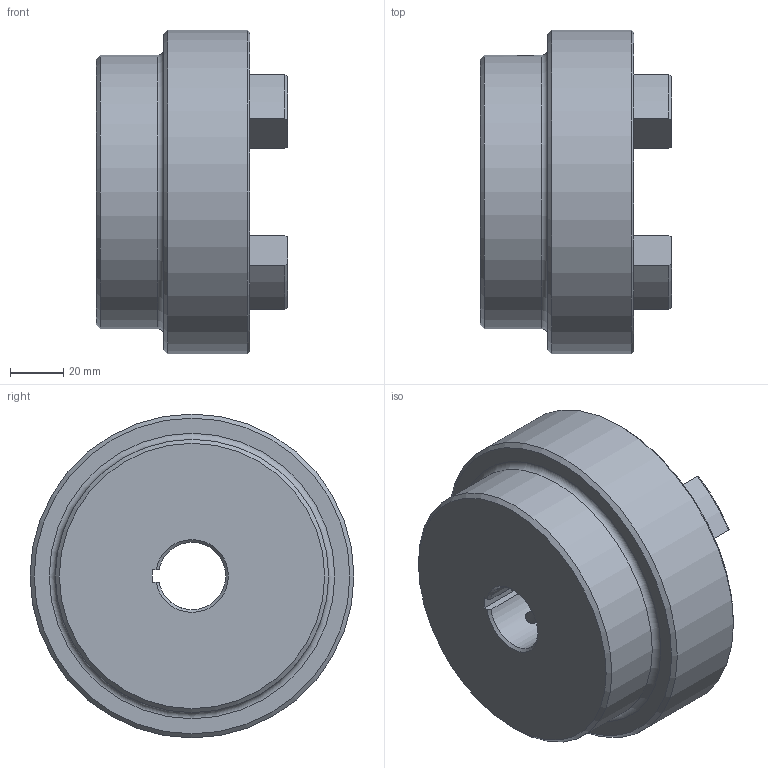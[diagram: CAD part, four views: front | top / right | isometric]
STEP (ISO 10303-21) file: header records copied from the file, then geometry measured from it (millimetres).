
FILE_DESCRIPTION (( 'STEP AP203' ), '1' );
FILE_NAME ('RC5.step', '2024-07-25T13:21:55', ( 'Adlan' ), ( '' ), 'SwSTEP 2.0', 'SolidWorks 2013', '' );
FILE_SCHEMA (( 'CONFIG_CONTROL_DESIGN' ));
Length unit declared in the file: inch
Products named in the file (1): RC5
Bounding box: 72.14 x 122.17 x 122.17 mm (x, y, z)
Volume: 456648.2 mm3; surface area: 59307.7 mm2
Topology: 1 solids, 1 shells, 86 faces, 222 edges, 139 vertices
Faces by surface type: cylinder 33, plane 22, torus 17, cone 14
Full cylindrical faces by diameter (mm): 5.105 x2, 103.124 x1, 122.174 x1
Entity records: 2883 total; most frequent: CARTESIAN_POINT 713, DIRECTION 462, ORIENTED_EDGE 416, EDGE_CURVE 208, AXIS2_PLACEMENT_3D 182, VERTEX_POINT 135, EDGE_LOOP 103, LINE 98
